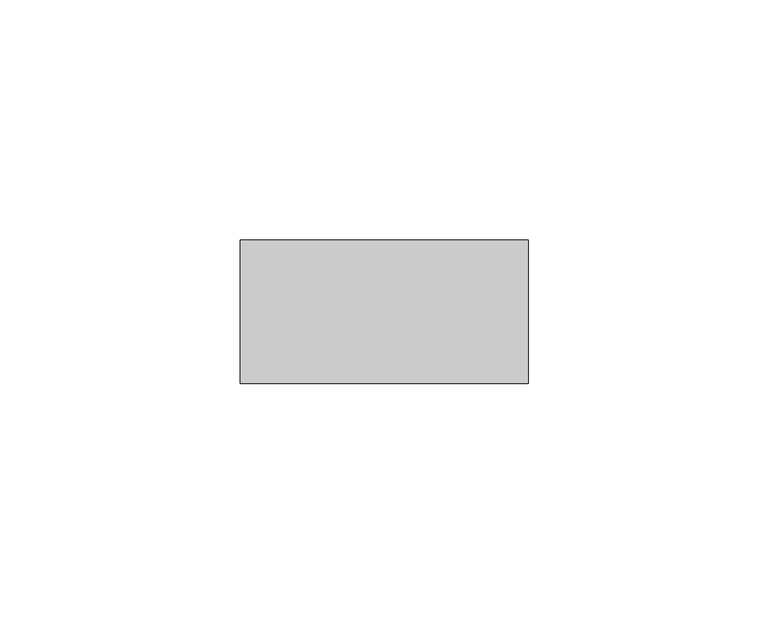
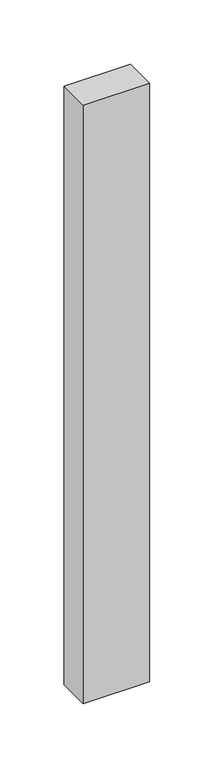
"""IFC4 building model written with IfcOpenShell, lengths in millimetres: member geometry, Прямоугольный импост : Квадрат 30 мм."""

from ifc_helpers import new_model, si_unit, frame, origin, place, context, project, spatial, polyline, outline, extrude, source, transform, mapped, element, save


def member_91b37b69(model_context):
    return source(origin(), model_context, "Body", "SweptSolid", [
        extrude(outline(polyline([(30.0, 15.0), (30.0, -15.0), (-30.0, -15.0), (-30.0, 15.0), (30.0, 15.0)])), frame((0.0, 0.0, -570.0), z_axis=(0.0, 0.0, 1.0), x_axis=(1.0, 0.0, 0.0)), (0.0, 0.0, 1.0), 570.0),
    ])


if __name__ == "__main__":
    model = new_model("IFC4")
    model_context = context("Model", 3, world=origin())
    ifc_project = project(units=[si_unit("LENGTHUNIT", "METRE", prefix="MILLI")], contexts=[model_context])
    site = spatial("IfcSite", under=ifc_project)
    building = spatial("IfcBuilding", under=site)
    placement = place(None, origin())
    member_shape = member_91b37b69(model_context)
    element("IfcMember", 1, ObjectType="Прямоугольный импост : Квадрат 30 мм", at=placement, inside=building, context=model_context, shape_type="MappedRepresentation", body=[
        mapped(member_shape, transform((0.0, 0.0, 0.0), x_axis=(1.0, 0.0, 0.0), y_axis=(0.0, 1.0, 0.0), z_axis=(0.0, 0.0, 1.0))),
    ])
    save(model, "model.ifc")
